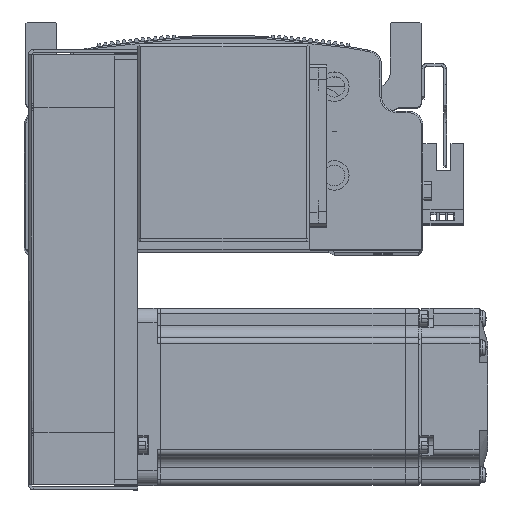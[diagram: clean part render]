
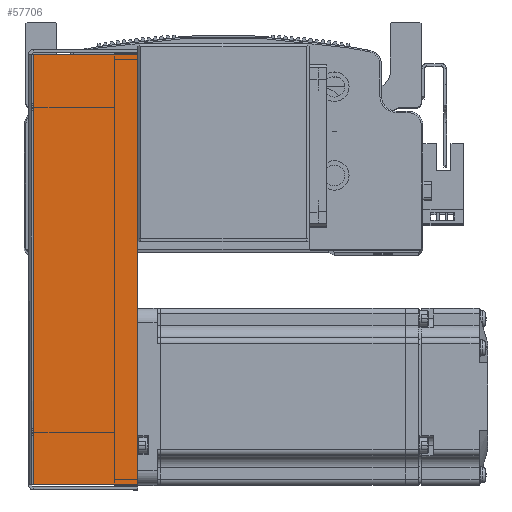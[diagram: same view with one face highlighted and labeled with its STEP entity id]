
A CAD part, top view. The second image highlights one B-rep face of the part: STEP entity #57706.
In plain terms, the highlighted planar face has unit normal (0, 0, 1) as drawn and (0, 0, -1) by its records, which use the part's own axes.
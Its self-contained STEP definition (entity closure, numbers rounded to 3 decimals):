
#4420 = ORIENTED_EDGE ( 'NONE', *, *, #34935, .T. ) ;
#4437 = ORIENTED_EDGE ( 'NONE', *, *, #34867, .F. ) ;
#4440 = ORIENTED_EDGE ( 'NONE', *, *, #34884, .F. ) ;
#4520 = ORIENTED_EDGE ( 'NONE', *, *, #34852, .T. ) ;
#13174 = CARTESIAN_POINT ( 'NONE',  ( 0., 36., -34.5 ) ) ;
#13209 = DIRECTION ( 'NONE',  ( 1., 0., 0. ) ) ;
#13979 = DIRECTION ( 'NONE',  ( 0., 1., 0. ) ) ;
#13981 = CARTESIAN_POINT ( 'NONE',  ( -72.793, 0., -34.5 ) ) ;
#13990 = CARTESIAN_POINT ( 'NONE',  ( 72.793, 0., -34.5 ) ) ;
#13996 = DIRECTION ( 'NONE',  ( 0., 1., 0. ) ) ;
#14027 = DIRECTION ( 'NONE',  ( 1., 0., 0. ) ) ;
#14035 = CARTESIAN_POINT ( 'NONE',  ( 74.5, 0.737, -34.5 ) ) ;
#24524 = VERTEX_POINT ( 'NONE', #33756 ) ;
#24531 = VERTEX_POINT ( 'NONE', #33760 ) ;
#24568 = VERTEX_POINT ( 'NONE', #33845 ) ;
#24572 = VERTEX_POINT ( 'NONE', #33858 ) ;
#32542 = AXIS2_PLACEMENT_3D ( 'NONE', #53124, #53165, #53131 ) ;
#33756 = CARTESIAN_POINT ( 'NONE',  ( -72.793, 36., -34.5 ) ) ;
#33760 = CARTESIAN_POINT ( 'NONE',  ( 72.793, 36., -34.5 ) ) ;
#33845 = CARTESIAN_POINT ( 'NONE',  ( 72.793, 0.737, -34.5 ) ) ;
#33858 = CARTESIAN_POINT ( 'NONE',  ( -72.793, 0.737, -34.5 ) ) ;
#34852 = EDGE_CURVE ( 'NONE', #24572, #24524, #48854, .T. ) ;
#34867 = EDGE_CURVE ( 'NONE', #24568, #24531, #48860, .T. ) ;
#34884 = EDGE_CURVE ( 'NONE', #24572, #24568, #48845, .T. ) ;
#34935 = EDGE_CURVE ( 'NONE', #24524, #24531, #48919, .T. ) ;
#39654 = EDGE_LOOP ( 'NONE', ( #4440, #4520, #4420, #4437 ) ) ;
#42433 = FACE_OUTER_BOUND ( 'NONE', #39654, .T. ) ;
#48845 = LINE ( 'NONE', #14035, #48857 ) ;
#48854 = LINE ( 'NONE', #13981, #48881 ) ;
#48857 = VECTOR ( 'NONE', #14027, 1000. ) ;
#48860 = LINE ( 'NONE', #13990, #48874 ) ;
#48874 = VECTOR ( 'NONE', #13996, 1000. ) ;
#48881 = VECTOR ( 'NONE', #13979, 1000. ) ;
#48916 = VECTOR ( 'NONE', #13209, 1000. ) ;
#48919 = LINE ( 'NONE', #13174, #48916 ) ;
#53124 = CARTESIAN_POINT ( 'NONE',  ( 0., 0., -34.5 ) ) ;
#53131 = DIRECTION ( 'NONE',  ( 0., -1., 0. ) ) ;
#53163 = PLANE ( 'NONE',  #32542 ) ;
#53165 = DIRECTION ( 'NONE',  ( 0., 0., 1. ) ) ;
#57706 = ADVANCED_FACE ( 'NONE', ( #42433 ), #53163, .F. ) ;
